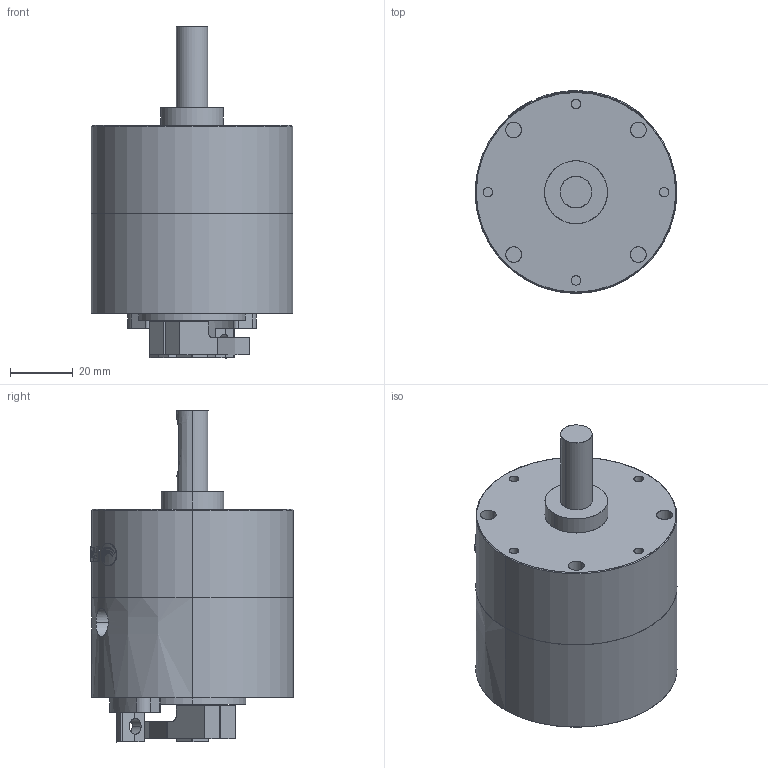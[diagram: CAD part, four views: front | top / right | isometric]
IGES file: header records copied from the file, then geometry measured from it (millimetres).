
Start section: SolidWorks IGES file using analytic representation for surfaces
Global section: file name: C:\Users\Chieh_Lu\Dropbox\¤u§@«Ç\PRO\PROA30S-D\PROA30S-D-#-#\PROA30D-#-#.IGS; native system: SolidWorks 2014; preprocessor: SolidWorks 2014; author: Chieh_Lu; date: 150801.213900; units: millimetre
Bounding box: 64 x 64.3 x 105.5 mm (x, y, z)
Surface area: 37946.6 mm2 (no closed solid volume)
Topology: 0 solids, 0 shells, 352 faces, 5451 edges, 5447 vertices
Faces by surface type: bspline 183, revolution 169
